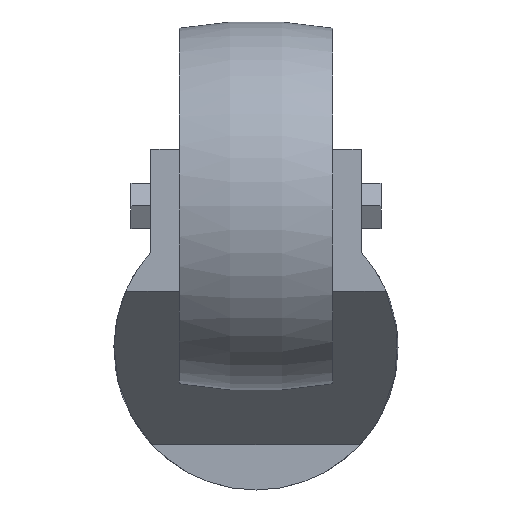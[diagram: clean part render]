
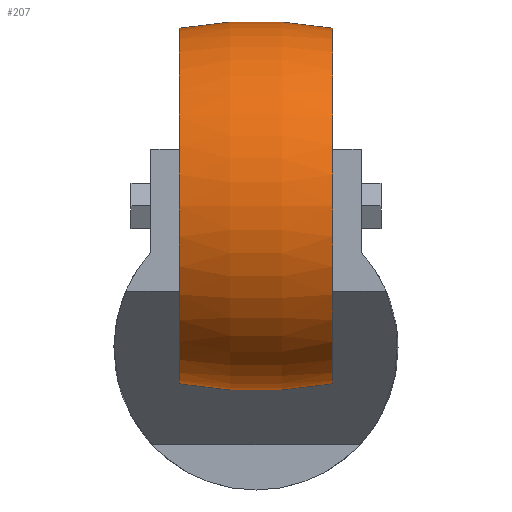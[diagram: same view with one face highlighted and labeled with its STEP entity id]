
A CAD part, front view. The second image highlights one B-rep face of the part: STEP entity #207.
In plain terms, the highlighted toroidal (fillet/blend) face has major radius 42.5 mm and minor radius 75 mm.
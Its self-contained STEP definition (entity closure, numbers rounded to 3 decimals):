
#1 = DIRECTION ( 'NONE',  ( -1., 0., 0. ) ) ;
#17 = ORIENTED_EDGE ( 'NONE', *, *, #31, .T. ) ;
#31 = EDGE_CURVE ( 'NONE', #580, #50, #712, .T. ) ;
#50 = VERTEX_POINT ( 'NONE', #766 ) ;
#54 = DIRECTION ( 'NONE',  ( 0., 0., -1. ) ) ;
#104 = CIRCLE ( 'NONE', #450, 75. ) ;
#107 = DIRECTION ( 'NONE',  ( 0., 0., 1. ) ) ;
#112 = DIRECTION ( 'NONE',  ( 0., 0., 1. ) ) ;
#141 = ORIENTED_EDGE ( 'NONE', *, *, #370, .F. ) ;
#183 = EDGE_LOOP ( 'NONE', ( #276, #624, #17, #141 ) ) ;
#204 = CARTESIAN_POINT ( 'NONE',  ( 13.5, -58.5, 25. ) ) ;
#207 = ADVANCED_FACE ( 'NONE', ( #621 ), #946, .T. ) ;
#209 = CARTESIAN_POINT ( 'NONE',  ( -13.5, -58.5, 25. ) ) ;
#238 = CARTESIAN_POINT ( 'NONE',  ( 0., -58.5, -17.5 ) ) ;
#273 = EDGE_CURVE ( 'NONE', #998, #580, #1075, .T. ) ;
#276 = ORIENTED_EDGE ( 'NONE', *, *, #1026, .F. ) ;
#298 = VERTEX_POINT ( 'NONE', #551 ) ;
#370 = EDGE_CURVE ( 'NONE', #298, #50, #985, .T. ) ;
#384 = DIRECTION ( 'NONE',  ( 0., 1., 0. ) ) ;
#450 = AXIS2_PLACEMENT_3D ( 'NONE', #749, #384, #905 ) ;
#517 = CARTESIAN_POINT ( 'NONE',  ( 13.5, -58.5, 56.275 ) ) ;
#551 = CARTESIAN_POINT ( 'NONE',  ( -13.5, -58.5, -6.275 ) ) ;
#580 = VERTEX_POINT ( 'NONE', #517 ) ;
#614 = AXIS2_PLACEMENT_3D ( 'NONE', #204, #995, #903 ) ;
#621 = FACE_OUTER_BOUND ( 'NONE', #183, .T. ) ;
#624 = ORIENTED_EDGE ( 'NONE', *, *, #273, .T. ) ;
#712 = CIRCLE ( 'NONE', #936, 75. ) ;
#749 = CARTESIAN_POINT ( 'NONE',  ( 0., -58.5, 67.5 ) ) ;
#766 = CARTESIAN_POINT ( 'NONE',  ( -13.5, -58.5, 56.275 ) ) ;
#778 = AXIS2_PLACEMENT_3D ( 'NONE', #209, #915, #112 ) ;
#839 = CARTESIAN_POINT ( 'NONE',  ( 13.5, -58.5, -6.275 ) ) ;
#854 = DIRECTION ( 'NONE',  ( 0., -1., 0. ) ) ;
#893 = CARTESIAN_POINT ( 'NONE',  ( 0., -58.5, 25. ) ) ;
#903 = DIRECTION ( 'NONE',  ( 0., 0., 1. ) ) ;
#905 = DIRECTION ( 'NONE',  ( 0., 0., 1. ) ) ;
#915 = DIRECTION ( 'NONE',  ( -1., 0., 0. ) ) ;
#936 = AXIS2_PLACEMENT_3D ( 'NONE', #238, #854, #54 ) ;
#946 = TOROIDAL_SURFACE ( 'NONE', #1045, -42.5, 75. ) ;
#985 = CIRCLE ( 'NONE', #778, 31.275 ) ;
#995 = DIRECTION ( 'NONE',  ( -1., 0., 0. ) ) ;
#998 = VERTEX_POINT ( 'NONE', #839 ) ;
#1026 = EDGE_CURVE ( 'NONE', #998, #298, #104, .T. ) ;
#1045 = AXIS2_PLACEMENT_3D ( 'NONE', #893, #1, #107 ) ;
#1075 = CIRCLE ( 'NONE', #614, 31.275 ) ;
